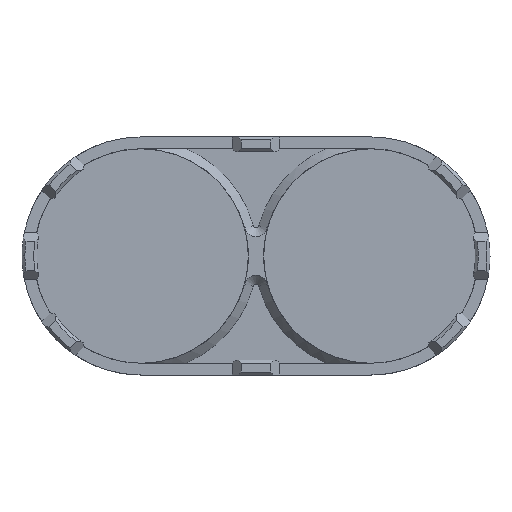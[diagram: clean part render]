
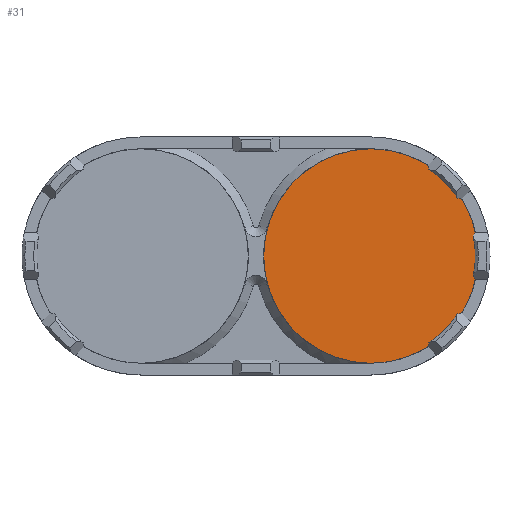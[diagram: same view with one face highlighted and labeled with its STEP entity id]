
A CAD part, top view. The second image highlights one B-rep face of the part: STEP entity #31.
In plain terms, the highlighted planar face has unit normal (0, 0, 1).
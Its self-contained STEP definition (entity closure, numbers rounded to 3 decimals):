
#31 = ADVANCED_FACE ( 'NONE', ( #226 ), #1427, .T. ) ;
#221 = CIRCLE ( 'NONE', #528, 18.2 ) ;
#226 = FACE_OUTER_BOUND ( 'NONE', #609, .T. ) ;
#331 = CIRCLE ( 'NONE', #2157, 18.2 ) ;
#528 = AXIS2_PLACEMENT_3D ( 'NONE', #1630, #1627, #1611 ) ;
#548 = AXIS2_PLACEMENT_3D ( 'NONE', #1396, #1413, #1391 ) ;
#609 = EDGE_LOOP ( 'NONE', ( #891, #870 ) ) ;
#870 = ORIENTED_EDGE ( 'NONE', *, *, #2696, .T. ) ;
#891 = ORIENTED_EDGE ( 'NONE', *, *, #2803, .T. ) ;
#895 = VERTEX_POINT ( 'NONE', #1530 ) ;
#925 = VERTEX_POINT ( 'NONE', #1575 ) ;
#1391 = DIRECTION ( 'NONE',  ( 1., 0., 0. ) ) ;
#1396 = CARTESIAN_POINT ( 'NONE',  ( 0., 0., 2. ) ) ;
#1413 = DIRECTION ( 'NONE',  ( 0., 0., 1. ) ) ;
#1427 = PLANE ( 'NONE',  #548 ) ;
#1530 = CARTESIAN_POINT ( 'NONE',  ( 57.2, 0., 2. ) ) ;
#1575 = CARTESIAN_POINT ( 'NONE',  ( 20.8, 0., 2. ) ) ;
#1611 = DIRECTION ( 'NONE',  ( 1., 0., 0. ) ) ;
#1627 = DIRECTION ( 'NONE',  ( 0., 0., 1. ) ) ;
#1630 = CARTESIAN_POINT ( 'NONE',  ( 39., 0., 2. ) ) ;
#1903 = DIRECTION ( 'NONE',  ( 1., 0., 0. ) ) ;
#1928 = CARTESIAN_POINT ( 'NONE',  ( 39., 0., 2. ) ) ;
#1929 = DIRECTION ( 'NONE',  ( 0., 0., 1. ) ) ;
#2157 = AXIS2_PLACEMENT_3D ( 'NONE', #1928, #1929, #1903 ) ;
#2696 = EDGE_CURVE ( 'NONE', #895, #925, #221, .T. ) ;
#2803 = EDGE_CURVE ( 'NONE', #925, #895, #331, .T. ) ;
